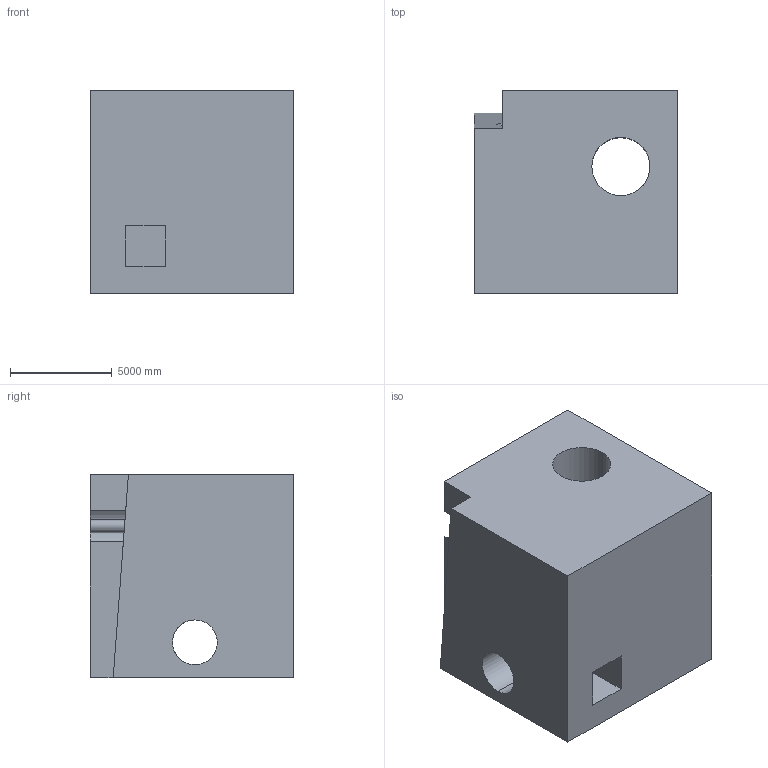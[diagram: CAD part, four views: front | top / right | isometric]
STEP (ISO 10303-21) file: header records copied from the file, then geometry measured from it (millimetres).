
FILE_DESCRIPTION (( 'STEP AP203' ), '1' );
FILE_NAME ('431.STEP', '2022-07-29T11:15:15', ( 'user' ), ( '' ), 'SwSTEP 2.0', 'SolidWorks 2021', '' );
FILE_SCHEMA (( 'CONFIG_CONTROL_DESIGN' ));
Length unit declared in the file: centimetre
Products named in the file (1): 431
Bounding box: 10000 x 10000 x 10000 mm (x, y, z)
Volume: 849661889611.2 mm3; surface area: 786516846 mm2
Topology: 1 solids, 1 shells, 25 faces, 66 edges, 44 vertices
Faces by surface type: plane 16, cylinder 9
Entity records: 1275 total; most frequent: CARTESIAN_POINT 556, ORIENTED_EDGE 132, DIRECTION 130, EDGE_CURVE 66, VECTOR 44, LINE 44, VERTEX_POINT 44, AXIS2_PLACEMENT_3D 43
